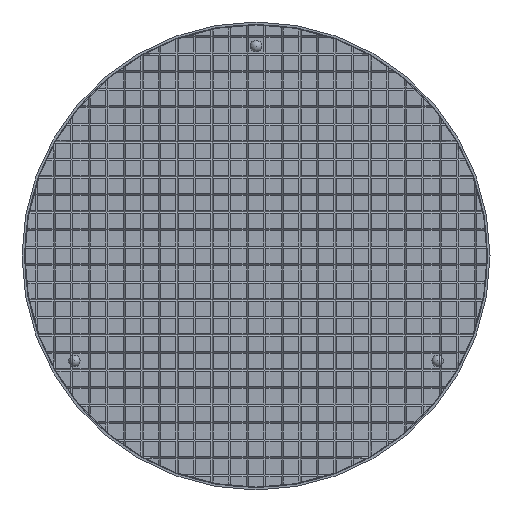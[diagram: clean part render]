
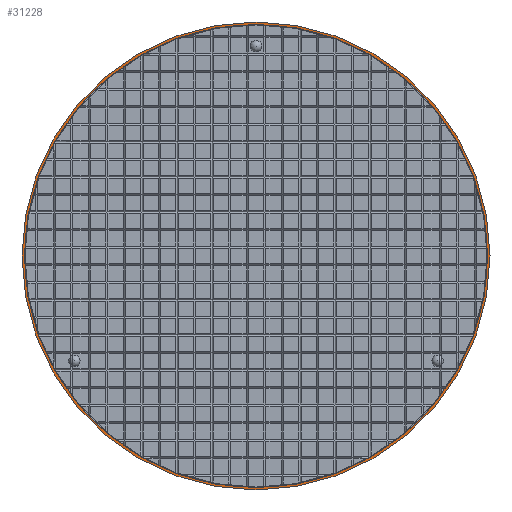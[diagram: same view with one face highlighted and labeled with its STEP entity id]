
A CAD part, front view. The second image highlights one B-rep face of the part: STEP entity #31228.
In plain terms, the highlighted planar face has unit normal (0, -1, 0).
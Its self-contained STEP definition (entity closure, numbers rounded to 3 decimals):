
#1190 = DIRECTION ( 'NONE',  ( 0., 0., -1. ) ) ;
#1956 = EDGE_CURVE ( 'NONE', #45797, #53167, #5083, .T. ) ;
#2750 = CARTESIAN_POINT ( 'NONE',  ( 198., 0.908, 0. ) ) ;
#3038 = CIRCLE ( 'NONE', #8833, 198. ) ;
#5083 = CIRCLE ( 'NONE', #44074, 200. ) ;
#5429 = ORIENTED_EDGE ( 'NONE', *, *, #1956, .F. ) ;
#8004 = ORIENTED_EDGE ( 'NONE', *, *, #14009, .F. ) ;
#8341 = DIRECTION ( 'NONE',  ( 0., 0., -1. ) ) ;
#8424 = DIRECTION ( 'NONE',  ( 0., 1., 0. ) ) ;
#8833 = AXIS2_PLACEMENT_3D ( 'NONE', #34533, #37441, #52003 ) ;
#9530 = AXIS2_PLACEMENT_3D ( 'NONE', #53264, #8424, #30371 ) ;
#10906 = AXIS2_PLACEMENT_3D ( 'NONE', #51424, #51054, #20203 ) ;
#12214 = ORIENTED_EDGE ( 'NONE', *, *, #22864, .T. ) ;
#13258 = CARTESIAN_POINT ( 'NONE',  ( 0., 0.908, -200. ) ) ;
#13514 = FACE_OUTER_BOUND ( 'NONE', #48158, .T. ) ;
#14009 = EDGE_CURVE ( 'NONE', #53167, #45797, #26575, .T. ) ;
#17654 = CARTESIAN_POINT ( 'NONE',  ( 0., 0.908, 0. ) ) ;
#18884 = PLANE ( 'NONE',  #44336 ) ;
#19866 = CIRCLE ( 'NONE', #10906, 198. ) ;
#20203 = DIRECTION ( 'NONE',  ( 0., 0., -1. ) ) ;
#20924 = VERTEX_POINT ( 'NONE', #33439 ) ;
#22608 = CARTESIAN_POINT ( 'NONE',  ( 0., 0.908, 198. ) ) ;
#22864 = EDGE_CURVE ( 'NONE', #20924, #30343, #19866, .T. ) ;
#23697 = DIRECTION ( 'NONE',  ( 0., 1., 0. ) ) ;
#24234 = EDGE_CURVE ( 'NONE', #30343, #20924, #3038, .T. ) ;
#25164 = ORIENTED_EDGE ( 'NONE', *, *, #24234, .T. ) ;
#25832 = EDGE_LOOP ( 'NONE', ( #12214, #25164 ) ) ;
#26575 = CIRCLE ( 'NONE', #9530, 200. ) ;
#30343 = VERTEX_POINT ( 'NONE', #22608 ) ;
#30371 = DIRECTION ( 'NONE',  ( 0., 0., -1. ) ) ;
#30858 = FACE_BOUND ( 'NONE', #25832, .T. ) ;
#31228 = ADVANCED_FACE ( 'NONE', ( #13514, #30858 ), #18884, .F. ) ;
#33439 = CARTESIAN_POINT ( 'NONE',  ( 0., 0.908, -198. ) ) ;
#34533 = CARTESIAN_POINT ( 'NONE',  ( 0., 0.908, 0. ) ) ;
#36125 = CARTESIAN_POINT ( 'NONE',  ( 0., 0.908, 200. ) ) ;
#37441 = DIRECTION ( 'NONE',  ( 0., 1., 0. ) ) ;
#44074 = AXIS2_PLACEMENT_3D ( 'NONE', #17654, #48738, #8341 ) ;
#44336 = AXIS2_PLACEMENT_3D ( 'NONE', #2750, #23697, #1190 ) ;
#45797 = VERTEX_POINT ( 'NONE', #36125 ) ;
#48158 = EDGE_LOOP ( 'NONE', ( #8004, #5429 ) ) ;
#48738 = DIRECTION ( 'NONE',  ( 0., 1., 0. ) ) ;
#51054 = DIRECTION ( 'NONE',  ( 0., 1., 0. ) ) ;
#51424 = CARTESIAN_POINT ( 'NONE',  ( 0., 0.908, 0. ) ) ;
#52003 = DIRECTION ( 'NONE',  ( 0., 0., -1. ) ) ;
#53167 = VERTEX_POINT ( 'NONE', #13258 ) ;
#53264 = CARTESIAN_POINT ( 'NONE',  ( 0., 0.908, 0. ) ) ;
